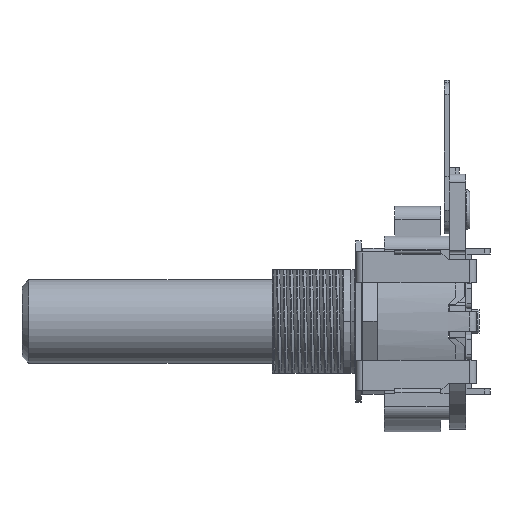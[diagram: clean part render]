
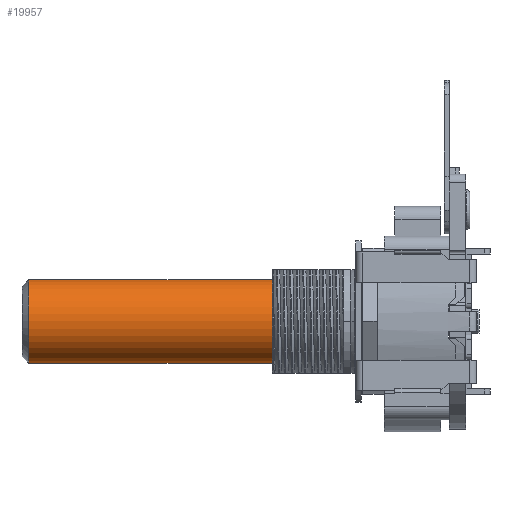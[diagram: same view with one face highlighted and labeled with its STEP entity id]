
A CAD part, left-side view. The second image highlights one B-rep face of the part: STEP entity #19957.
In plain terms, the highlighted cylindrical face has radius 3.175 mm (diameter 6.35 mm), a partial arc.
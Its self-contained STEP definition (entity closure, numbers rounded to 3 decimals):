
#189 = ORIENTED_EDGE ( 'NONE', *, *, #27008, .F. ) ;
#349 = EDGE_CURVE ( 'NONE', #30133, #29508, #14414, .T. ) ;
#3096 = DIRECTION ( 'NONE',  ( 0., 0., -1. ) ) ;
#4381 = DIRECTION ( 'NONE',  ( 1., 0., 0. ) ) ;
#6938 = FACE_OUTER_BOUND ( 'NONE', #29390, .T. ) ;
#7454 = LINE ( 'NONE', #26750, #20605 ) ;
#8318 = DIRECTION ( 'NONE',  ( 1., 0., 0. ) ) ;
#9195 = DIRECTION ( 'NONE',  ( 0., 0., -1. ) ) ;
#10721 = CARTESIAN_POINT ( 'NONE',  ( 3.175, 0., 26.412 ) ) ;
#11612 = LINE ( 'NONE', #22588, #24756 ) ;
#11742 = ORIENTED_EDGE ( 'NONE', *, *, #349, .T. ) ;
#11799 = DIRECTION ( 'NONE',  ( -1., 0., 0. ) ) ;
#12456 = VERTEX_POINT ( 'NONE', #30687 ) ;
#12545 = ORIENTED_EDGE ( 'NONE', *, *, #12742, .T. ) ;
#12742 = EDGE_CURVE ( 'NONE', #29508, #12456, #7454, .T. ) ;
#13531 = CARTESIAN_POINT ( 'NONE',  ( 0., 0., 26.412 ) ) ;
#14414 = CIRCLE ( 'NONE', #16622, 3.175 ) ;
#14815 = DIRECTION ( 'NONE',  ( 0., 0., 1. ) ) ;
#15280 = CYLINDRICAL_SURFACE ( 'NONE', #33541, 3.175 ) ;
#16622 = AXIS2_PLACEMENT_3D ( 'NONE', #13531, #3096, #8318 ) ;
#18387 = DIRECTION ( 'NONE',  ( 0., 0., -1. ) ) ;
#19957 = ADVANCED_FACE ( 'NONE', ( #6938 ), #15280, .T. ) ;
#20155 = DIRECTION ( 'NONE',  ( 0., 0., -1. ) ) ;
#20457 = CARTESIAN_POINT ( 'NONE',  ( -3.175, 0., 0.1 ) ) ;
#20605 = VECTOR ( 'NONE', #18387, 1000. ) ;
#20750 = CARTESIAN_POINT ( 'NONE',  ( 0., 0., 0.1 ) ) ;
#21137 = CARTESIAN_POINT ( 'NONE',  ( -3.175, 0., 26.412 ) ) ;
#22052 = CIRCLE ( 'NONE', #27061, 3.175 ) ;
#22588 = CARTESIAN_POINT ( 'NONE',  ( -3.175, 0., 26.92 ) ) ;
#24756 = VECTOR ( 'NONE', #20155, 1000. ) ;
#25205 = CARTESIAN_POINT ( 'NONE',  ( 0., 0., 26.92 ) ) ;
#26670 = EDGE_CURVE ( 'NONE', #12456, #29893, #22052, .T. ) ;
#26750 = CARTESIAN_POINT ( 'NONE',  ( 3.175, 0., 26.92 ) ) ;
#27008 = EDGE_CURVE ( 'NONE', #30133, #29893, #11612, .T. ) ;
#27061 = AXIS2_PLACEMENT_3D ( 'NONE', #20750, #14815, #4381 ) ;
#29390 = EDGE_LOOP ( 'NONE', ( #11742, #12545, #34218, #189 ) ) ;
#29508 = VERTEX_POINT ( 'NONE', #10721 ) ;
#29893 = VERTEX_POINT ( 'NONE', #20457 ) ;
#30133 = VERTEX_POINT ( 'NONE', #21137 ) ;
#30687 = CARTESIAN_POINT ( 'NONE',  ( 3.175, 0., 0.1 ) ) ;
#33541 = AXIS2_PLACEMENT_3D ( 'NONE', #25205, #9195, #11799 ) ;
#34218 = ORIENTED_EDGE ( 'NONE', *, *, #26670, .T. ) ;
